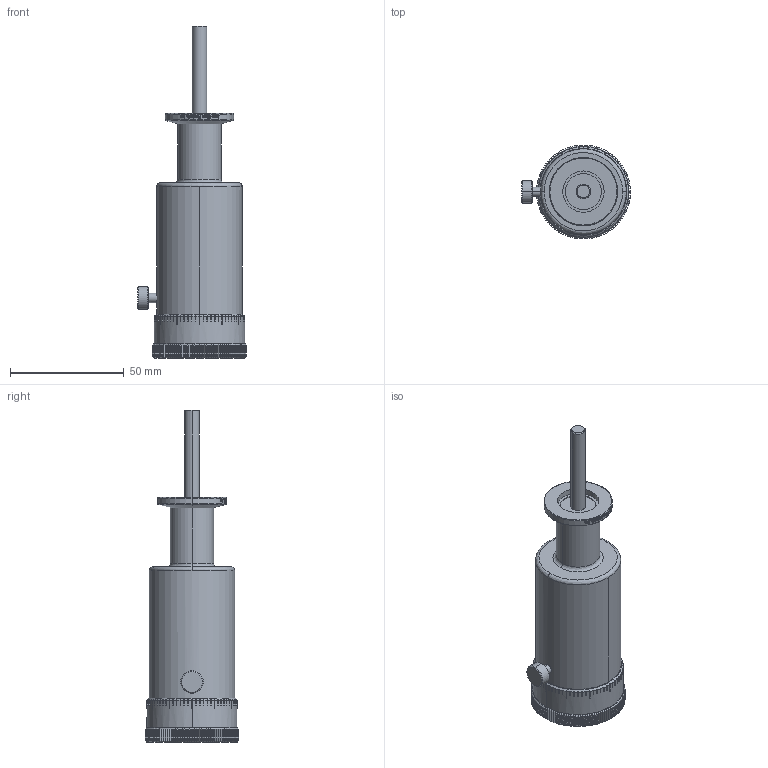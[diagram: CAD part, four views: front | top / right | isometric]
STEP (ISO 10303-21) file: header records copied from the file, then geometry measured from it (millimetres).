
FILE_DESCRIPTION (( 'STEP AP203' ), '1' );
FILE_NAME ('102140.stp', '2019-04-18T16:59:24', ( '' ), ( '' ), 'SwSTEP 2.0', 'SolidWorks 2012', '' );
FILE_SCHEMA (( 'CONFIG_CONTROL_DESIGN' ));
Products named in the file (1): 102140
Bounding box: 47.81 x 41.27 x 145.9 mm (x, y, z)
Volume: 98986.6 mm3; surface area: 16084 mm2
Topology: 1 solids, 1 shells, 916 faces, 2620 edges, 1743 vertices
Faces by surface type: plane 475, cylinder 279, bspline 148, cone 14
Entity records: 54857 total; most frequent: CARTESIAN_POINT 32745, ORIENTED_EDGE 5240, DIRECTION 3752, EDGE_CURVE 2620, VERTEX_POINT 1743, AXIS2_PLACEMENT_3D 1389, B_SPLINE_CURVE_WITH_KNOTS 990, VECTOR 974
